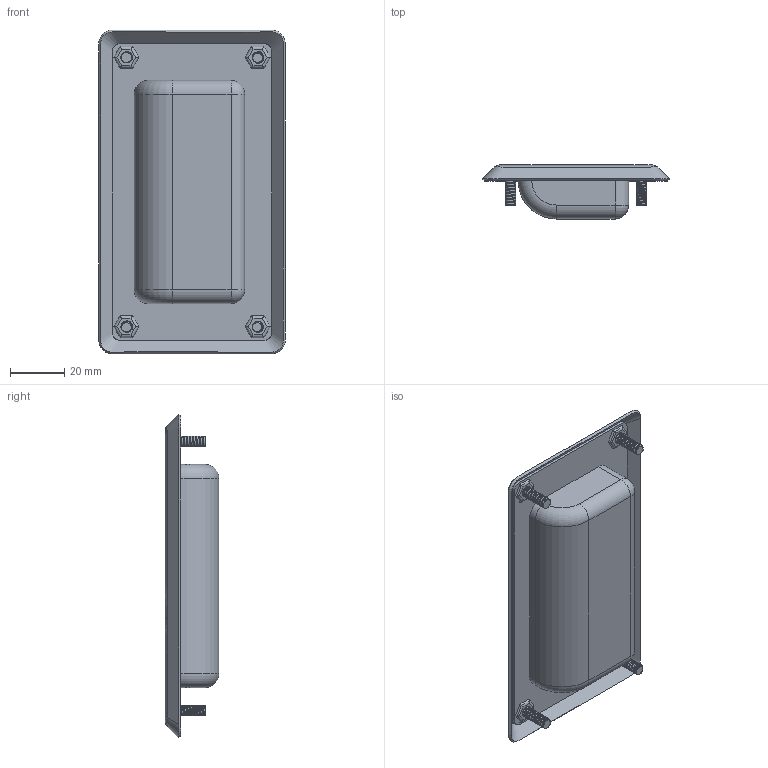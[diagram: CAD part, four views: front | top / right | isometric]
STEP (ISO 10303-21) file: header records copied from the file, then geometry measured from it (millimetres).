
FILE_DESCRIPTION (( 'STEP AP203' ), '1' );
FILE_NAME ('XG01-035-120A.STEP', '2025-07-25T07:30:08', ( '微软用户' ), ( '微软中国' ), 'SwSTEP 2.0', 'SolidWorks 2024', '' );
FILE_SCHEMA (( 'CONFIG_CONTROL_DESIGN' ));
Length unit declared in the file: millimetre
Products named in the file (1): XG01-035-120A
Bounding box: 68.5 x 19.71 x 119 mm (x, y, z)
Volume: 16709.9 mm3; surface area: 33767 mm2
Topology: 1 solids, 1 shells, 288 faces, 762 edges, 486 vertices
Faces by surface type: cylinder 181, plane 73, bspline 22, torus 8, sphere 4
Entity records: 30371 total; most frequent: CARTESIAN_POINT 23997, ORIENTED_EDGE 1516, DIRECTION 1106, EDGE_CURVE 758, VERTEX_POINT 486, AXIS2_PLACEMENT_3D 379, LINE 348, VECTOR 348
